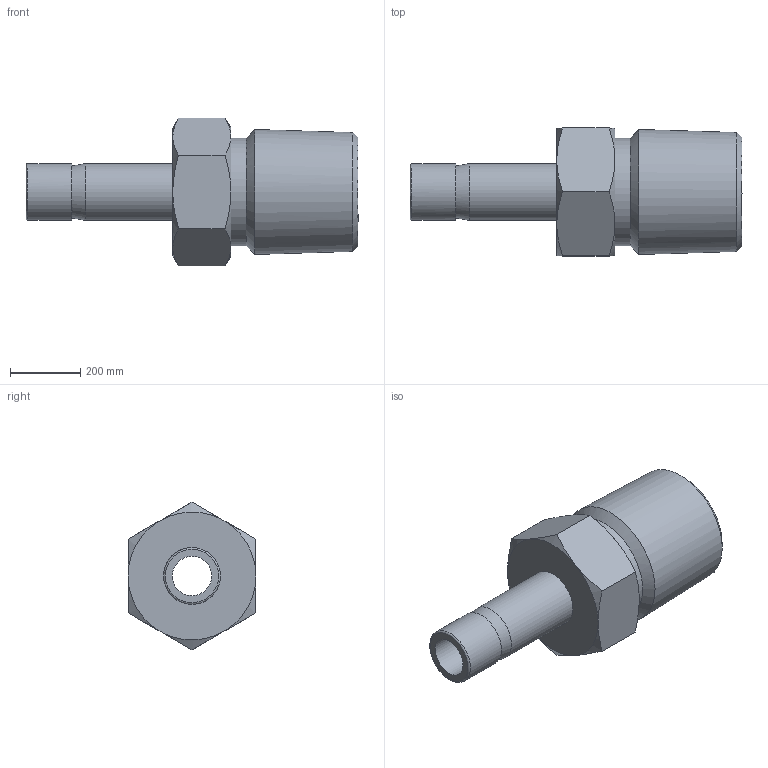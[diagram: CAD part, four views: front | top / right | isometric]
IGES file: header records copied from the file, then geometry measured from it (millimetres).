
Global section: file name: SMA-4-4N; native system: Autodesk Inventor 2016; preprocessor: unknown; author: DESIGNPC2; date: 20151221.091738; units: millimetre
Bounding box: 942.34 x 362.95 x 419.1 mm (x, y, z)
Volume: 50590470.9 mm3; surface area: 1351064.9 mm2
Topology: 1 solids, 1 shells, 33 faces, 81 edges, 53 vertices
Faces by surface type: bspline 33
